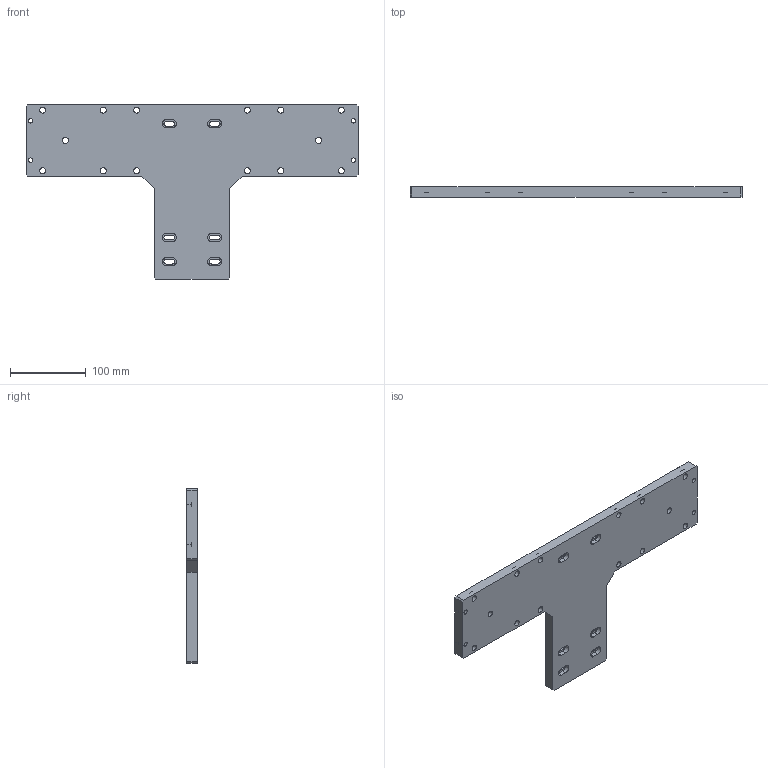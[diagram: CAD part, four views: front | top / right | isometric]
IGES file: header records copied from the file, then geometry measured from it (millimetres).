
Start section:  PTC IGES file: k100-k100l-st.igs
Global section: file name: k100-k100l-st.igs; native system: Pro/ENGINEER by Parametric Technology Corporation; preprocessor: 2008230; author: Owner; organization: Unknown; date: 20121211.155738; units: millimetre
Bounding box: 438 x 14 x 230 mm (x, y, z)
Surface area: 137788.7 mm2 (no closed solid volume)
Topology: 0 solids, 0 shells, 162 faces, 864 edges, 854 vertices
Faces by surface type: revolution 96, bspline 66
